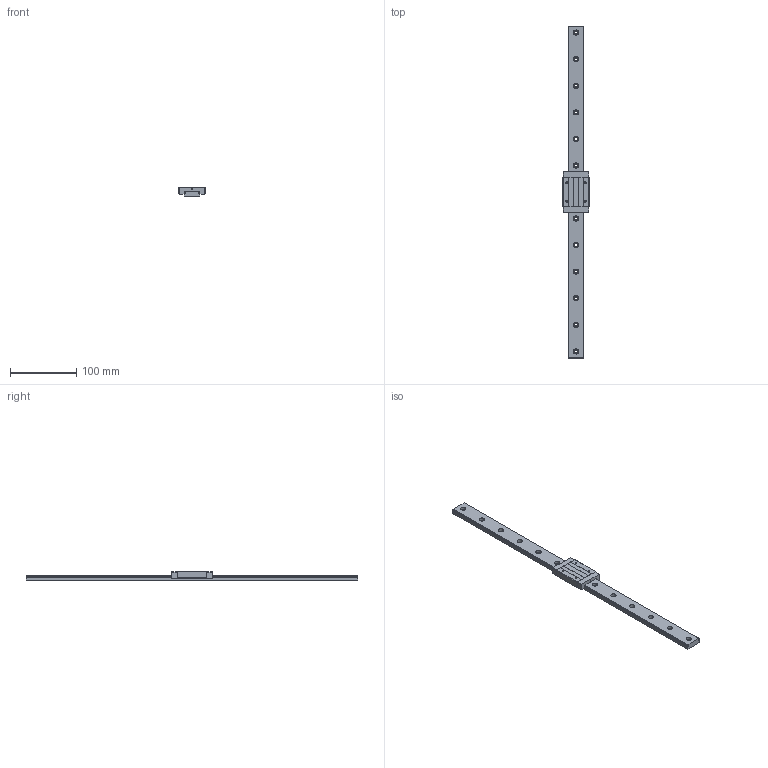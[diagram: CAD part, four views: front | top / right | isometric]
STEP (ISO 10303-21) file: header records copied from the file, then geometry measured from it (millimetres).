
FILE_DESCRIPTION (( 'STEP AP203' ), '1' );
FILE_NAME ('TM12WL.STEP', '2023-01-30T09:10:48', ( '' ), ( '' ), 'SwSTEP 2.0', 'SolidWorks 2019', '' );
FILE_SCHEMA (( 'CONFIG_CONTROL_DESIGN' ));
Length unit declared in the file: millimetre
Products named in the file (1): TM12WL
Bounding box: 40 x 500 x 14 mm (x, y, z)
Volume: 113722 mm3; surface area: 44001.2 mm2
Topology: 2 solids, 2 shells, 181 faces, 474 edges, 308 vertices
Faces by surface type: cylinder 96, plane 77, cone 8
Entity records: 5695 total; most frequent: DIRECTION 1022, CARTESIAN_POINT 956, ORIENTED_EDGE 932, EDGE_CURVE 466, AXIS2_PLACEMENT_3D 374, VERTEX_POINT 308, VECTOR 274, LINE 274
